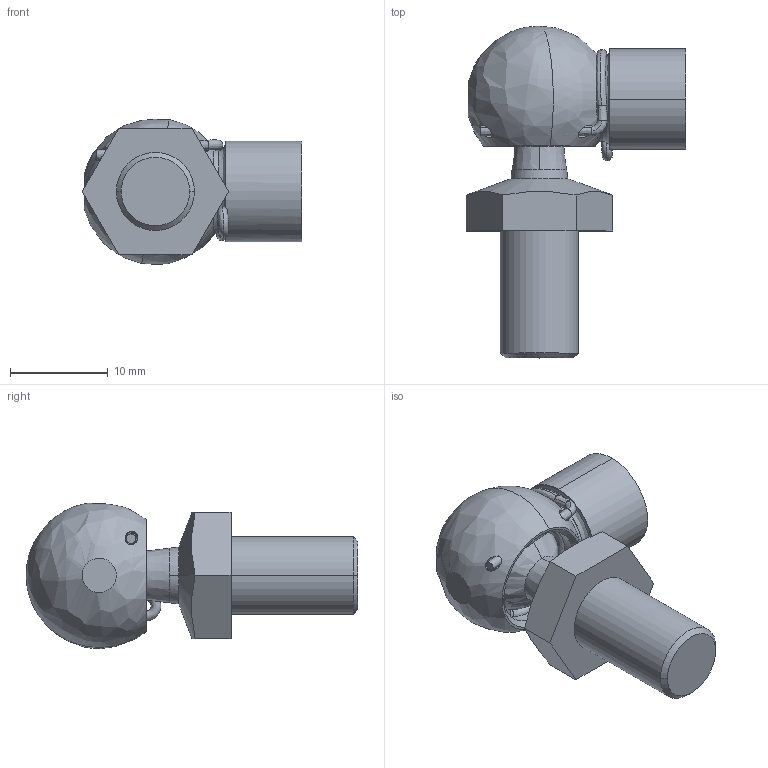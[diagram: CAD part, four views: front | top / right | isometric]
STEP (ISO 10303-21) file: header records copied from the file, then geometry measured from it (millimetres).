
FILE_DESCRIPTION (( 'STEP AP214' ), '1' );
FILE_NAME ('13.CS10M5L15T.STEP', '2017-11-19T10:28:29', ( '' ), ( '' ), 'SwSTEP 2.0', 'SolidWorks 2016', '' );
FILE_SCHEMA (( 'AUTOMOTIVE_DESIGN' ));
Length unit declared in the file: millimetre
Products named in the file (1): 13.CS10M5L15T
Bounding box: 22.51 x 34 x 14.87 mm (x, y, z)
Volume: 3366.6 mm3; surface area: 2594.6 mm2
Topology: 1 solids, 1 shells, 90 faces, 276 edges, 177 vertices
Faces by surface type: bspline 35, plane 20, cylinder 18, cone 17
Entity records: 9838 total; most frequent: CARTESIAN_POINT 7658, ORIENTED_EDGE 528, DIRECTION 363, EDGE_CURVE 264, VERTEX_POINT 177, AXIS2_PLACEMENT_3D 154, EDGE_LOOP 101, CIRCLE 98
